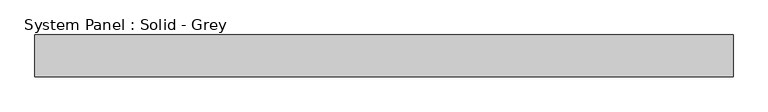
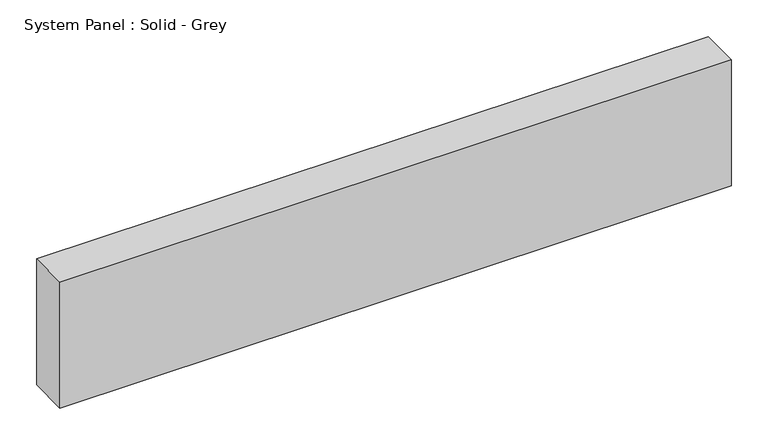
"""IFC4 building model written with IfcOpenShell, lengths in millimetres: plate geometry, System Panel : Solid - Grey."""

from ifc_helpers import new_model, si_unit, origin, origin_with_axes, place, context, project, spatial, polyline, outline, extrude, source, transform, mapped, element, save


def system_panel_solid_grey_b12ea01a(model_context):
    return source(origin(), model_context, "Body", "SweptSolid", [
        extrude(outline(polyline([(528.4107144, -19.05), (-528.4107144, -19.05), (-528.4107144, 44.45), (528.4107144, 44.45), (528.4107144, -19.05)])), origin_with_axes(), (0.0, 0.0, 1.0), 209.55),
    ])


if __name__ == "__main__":
    model = new_model("IFC4")
    model_context = context("Model", 3, world=origin())
    ifc_project = project(units=[si_unit("LENGTHUNIT", "METRE", prefix="MILLI")], contexts=[model_context])
    site = spatial("IfcSite", under=ifc_project)
    building = spatial("IfcBuilding", under=site)
    placement = place(None, origin())
    system_panel_solid_grey_shape = system_panel_solid_grey_b12ea01a(model_context)
    element("IfcPlate", 1, ObjectType="System Panel : Solid - Grey", at=placement, inside=building, context=model_context, shape_type="MappedRepresentation", body=[
        mapped(system_panel_solid_grey_shape, transform((0.0, 0.0, 0.0), x_axis=(1.0, 0.0, 0.0), y_axis=(0.0, 1.0, 0.0), z_axis=(0.0, 0.0, 1.0))),
    ])
    save(model, "model.ifc")
